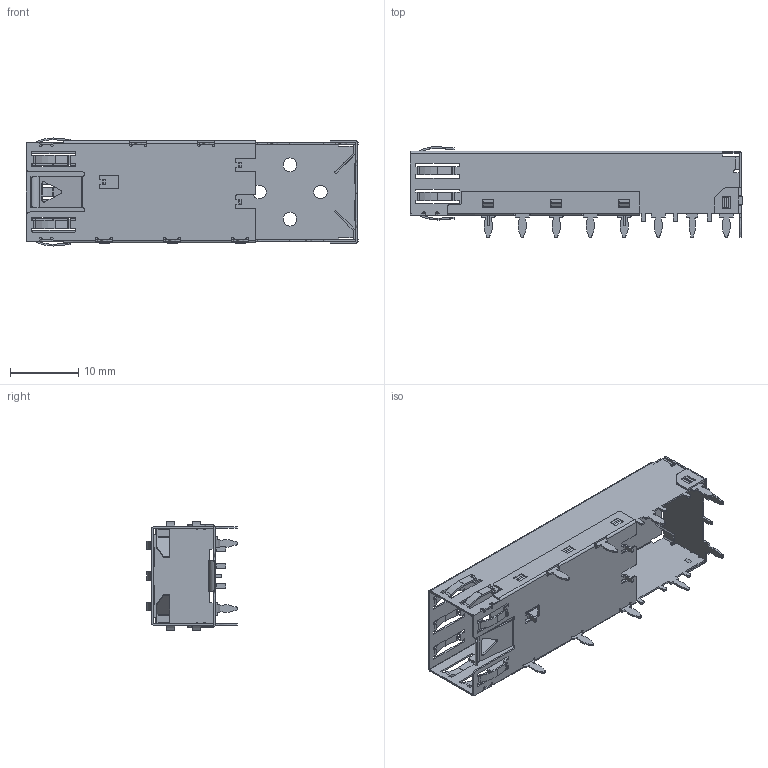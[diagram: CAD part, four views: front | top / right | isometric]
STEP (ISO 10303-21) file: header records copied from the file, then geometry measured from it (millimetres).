
FILE_DESCRIPTION (( 'STEP AP203' ), '1' );
FILE_NAME ('10700111W004-諦誧3D.STEP', '2022-04-15T02:18:48', ( '' ), ( '' ), 'SwSTEP 2.0', 'SolidWorks 2016', '' );
FILE_SCHEMA (( 'CONFIG_CONTROL_DESIGN' ));
Length unit declared in the file: millimetre
Products named in the file (1): 10700111W004-諦誧3D
Bounding box: 48.81 x 13.35 x 15.9 mm (x, y, z)
Volume: 569.5 mm3; surface area: 4469.4 mm2
Topology: 1 solids, 1 shells, 1071 faces, 3176 edges, 2105 vertices
Faces by surface type: plane 550, cylinder 515, bspline 6
Full cylindrical faces by diameter (mm): 2 x12
Entity records: 37187 total; most frequent: CARTESIAN_POINT 9043, ORIENTED_EDGE 6328, DIRECTION 5246, EDGE_CURVE 3164, VERTEX_POINT 2105, LINE 1966, VECTOR 1966, AXIS2_PLACEMENT_3D 1640
